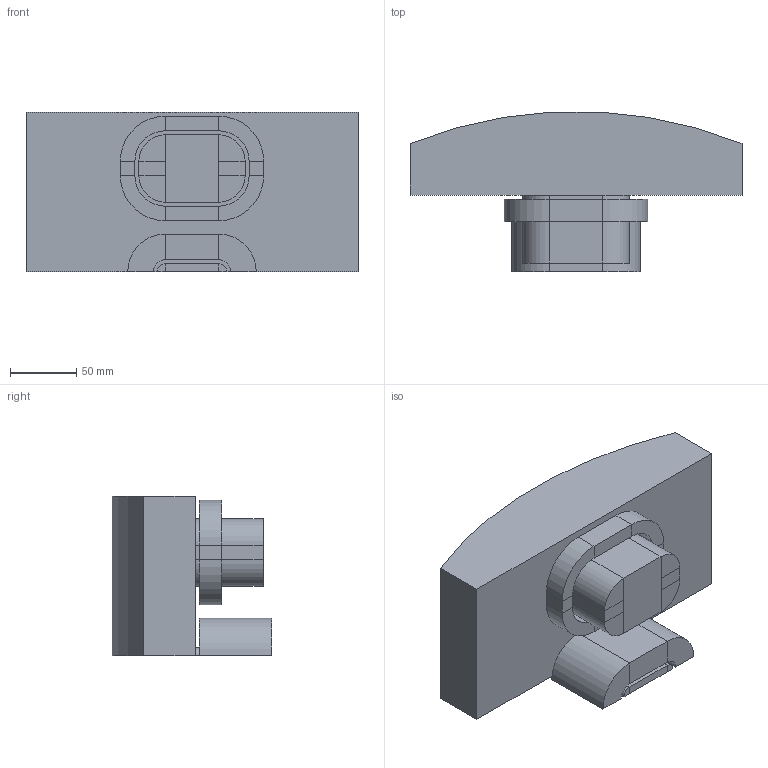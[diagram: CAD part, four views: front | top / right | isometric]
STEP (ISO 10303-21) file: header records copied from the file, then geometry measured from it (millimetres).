
FILE_DESCRIPTION(('STEP AP214'),'1');
FILE_NAME('SWLS_Sirius_Model8_step.step','2022-06-03T18:29:56',(' '),(' '),'Spatial InterOp 3D',' ',' ');
FILE_SCHEMA(('AUTOMOTIVE_DESIGN { 1 0 10303 214 1 1 1 1 }'));
Length unit declared in the file: millimetre
Products named in the file (1): Yoke
Bounding box: 250 x 120.11 x 120 mm (x, y, z)
Volume: 2015928.4 mm3; surface area: 183056 mm2
Topology: 22 solids, 22 shells, 126 faces, 246 edges, 164 vertices
Faces by surface type: plane 107, cylinder 19
Entity records: 3464 total; most frequent: DIRECTION 580, CARTESIAN_POINT 558, ORIENTED_EDGE 492, EDGE_CURVE 246, LINE 208, VECTOR 208, AXIS2_PLACEMENT_3D 186, VERTEX_POINT 164
